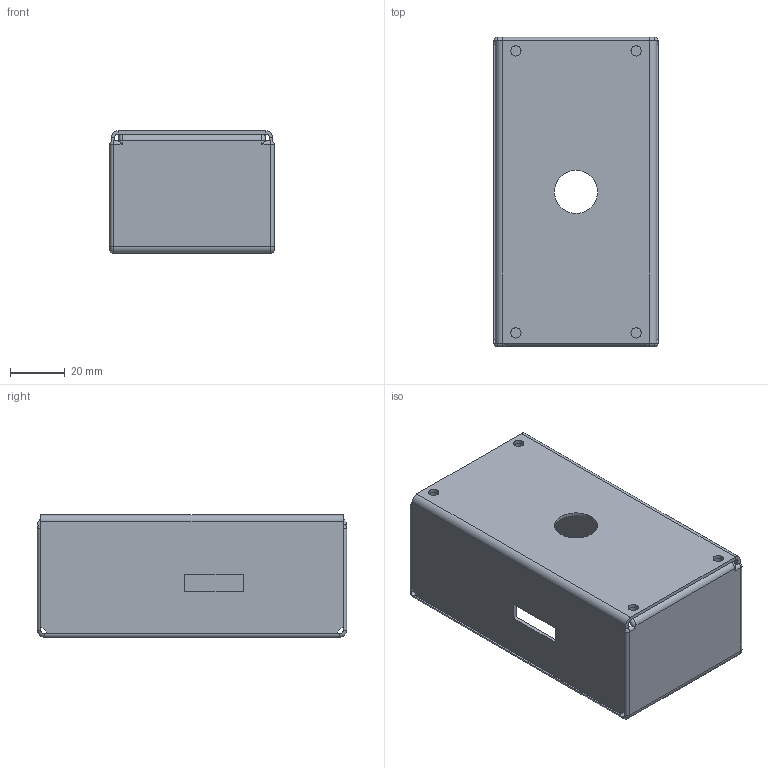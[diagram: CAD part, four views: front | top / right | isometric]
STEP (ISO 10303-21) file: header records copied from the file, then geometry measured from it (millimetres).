
FILE_DESCRIPTION (( 'STEP AP203' ), '1' );
FILE_NAME ('GL-2020-D-BX STEP.STEP', '2013-12-17T19:38:44', ( '' ), ( '' ), 'SwSTEP 2.0', 'SolidWorks 2013', '' );
FILE_SCHEMA (( 'CONFIG_CONTROL_DESIGN' ));
Length unit declared in the file: millimetre
Products named in the file (3): Part1; Part2^GL-2020-D-BX Assembly; GL-2020-D-BX STEP
Assembly tree (2 placements, depth 2):
  GL-2020-D-BX STEP
    Part1
    Part2^GL-2020-D-BX Assembly
Bounding box: 60.22 x 113.26 x 44.98 mm (x, y, z)
Volume: 32197.4 mm3; surface area: 52534.2 mm2
Topology: 2 solids, 2 shells, 137 faces, 341 edges, 206 vertices
Faces by surface type: cylinder 74, plane 51, torus 6, sphere 6
Entity records: 4430 total; most frequent: DIRECTION 759, CARTESIAN_POINT 747, ORIENTED_EDGE 670, EDGE_CURVE 335, AXIS2_PLACEMENT_3D 292, VERTEX_POINT 206, LINE 175, VECTOR 175
